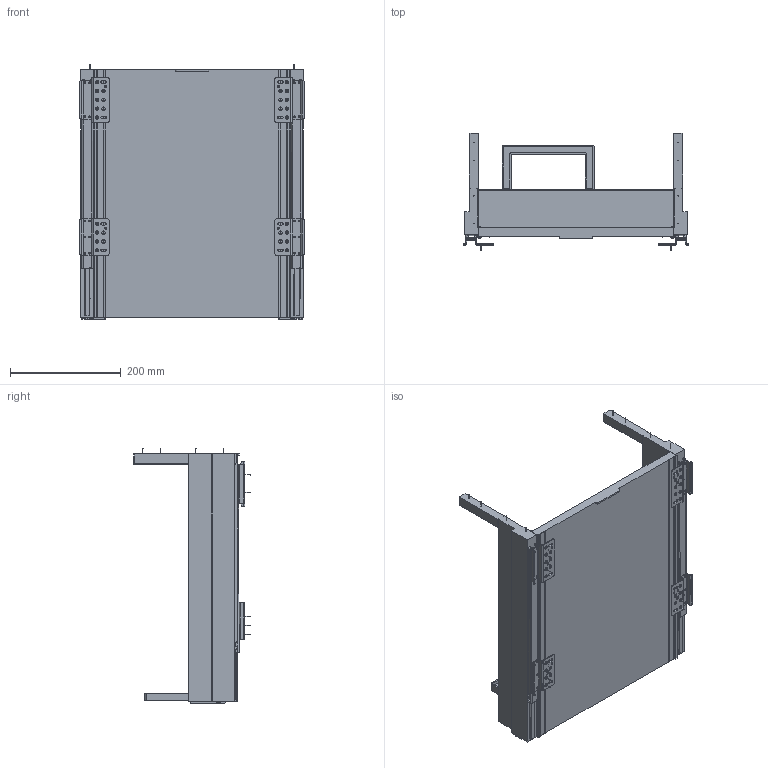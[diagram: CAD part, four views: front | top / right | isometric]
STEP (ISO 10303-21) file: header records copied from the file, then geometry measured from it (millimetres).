
FILE_DESCRIPTION((''),'2;1');
FILE_NAME('80_61_101','2024-08-30T09:48:38',('bru'),(''),'CREO PARAMETRIC BY PTC INC, 2022024','CREO PARAMETRIC BY PTC INC, 2022024','');
FILE_SCHEMA(('AUTOMOTIVE_DESIGN { 1 0 10303 214 1 1 1 1 }'));
Length unit declared in the file: millimetre
Products named in the file (1): 80_61_101
Bounding box: 406.5 x 211.06 x 461.2 mm (x, y, z)
Volume: 4524920.4 mm3; surface area: 776902.5 mm2
Topology: 14 solids, 14 shells, 1301 faces, 3584 edges, 2364 vertices
Faces by surface type: plane 644, cylinder 455, extrusion 90, torus 80, sphere 20, bspline 12
Entity records: 45433 total; most frequent: CARTESIAN_POINT 11482, ORIENTED_EDGE 7154, DIRECTION 6814, EDGE_CURVE 3577, VERTEX_POINT 2358, VECTOR 2277, AXIS2_PLACEMENT_3D 2267, LINE 2187
